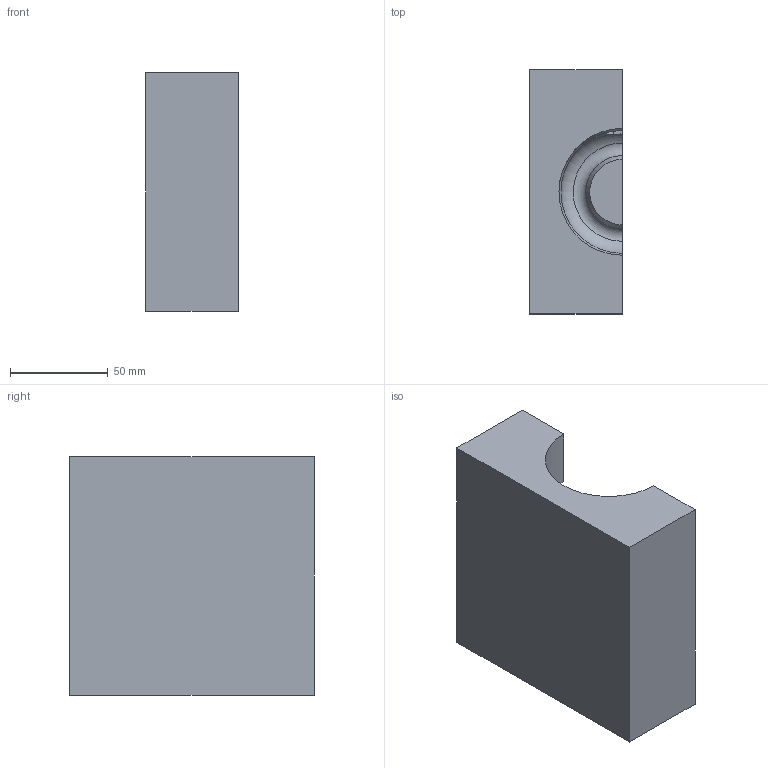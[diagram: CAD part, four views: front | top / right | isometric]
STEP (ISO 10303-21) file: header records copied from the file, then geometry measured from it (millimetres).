
FILE_DESCRIPTION((''),'2;1');
FILE_NAME('GEHAEUSE_200B','2020-04-07T',('CAD'),(''),'CREO PARAMETRIC BY PTC INC, 2017020','CREO PARAMETRIC BY PTC INC, 2017020','');
FILE_SCHEMA(('CONFIG_CONTROL_DESIGN'));
Length unit declared in the file: millimetre
Products named in the file (1): GEHAEUSE_200B
Bounding box: 47.5 x 125 x 122 mm (x, y, z)
Volume: 542036.4 mm3; surface area: 58656.6 mm2
Topology: 1 solids, 1 shells, 23 faces, 74 edges, 53 vertices
Faces by surface type: plane 13, cylinder 5, torus 3, cone 2
Entity records: 913 total; most frequent: CARTESIAN_POINT 187, ORIENTED_EDGE 148, DIRECTION 147, EDGE_CURVE 74, AXIS2_PLACEMENT_3D 55, VERTEX_POINT 53, VECTOR 37, LINE 37
